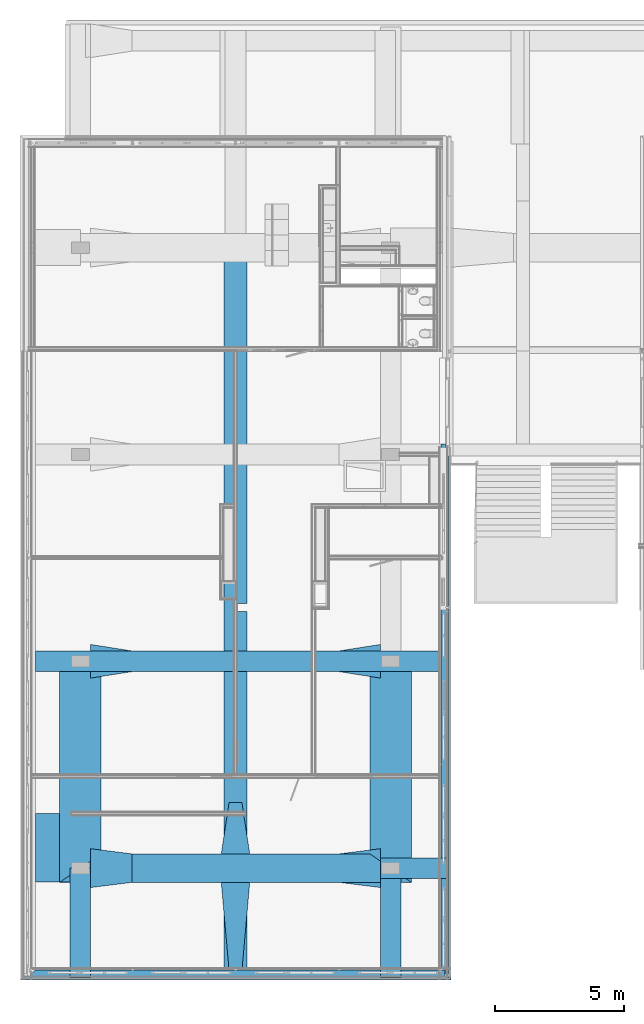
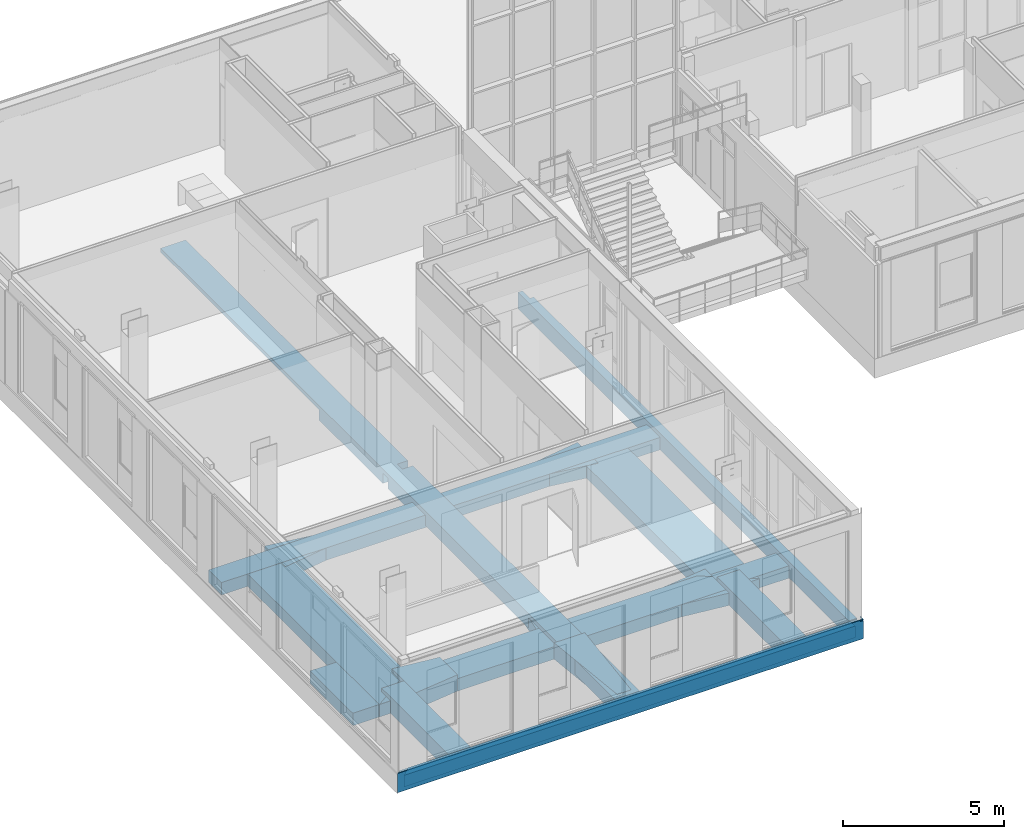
# One storey, part 17 of 94: 18 beams.
"""IFC2X3 building model written with IfcOpenShell, lengths in millimetres."""

from ifc_helpers import new_model, entity, si_unit, converted_unit, derived_unit, money_unit, direction, frame, origin_with_axes, place, context, subcontext, project, spatial, faceted_brep, material, type_object, element, save


model = new_model("IFC2X3")

# Units and contexts
model_context = context("Model", 3, precision=0.01, world=origin_with_axes(), true_north=direction((0.0, 1.0)))
body_context = subcontext(model_context, "Body", "Model", "MODEL_VIEW")
ifc_project = project(units=[si_unit("LENGTHUNIT", "METRE", prefix="MILLI"), si_unit("AREAUNIT", "SQUARE_METRE"), si_unit("VOLUMEUNIT", "CUBIC_METRE"), converted_unit("PLANEANGLEUNIT", "DEGREE", entity("IfcPlaneAngleMeasure", 0.0174532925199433), si_unit("PLANEANGLEUNIT", "RADIAN"), dimensions=[0, 0, 0, 0, 0, 0, 0]), money_unit("EUR"), converted_unit("TIMEUNIT", "Year", entity("IfcTimeMeasure", 31557600.0), si_unit("TIMEUNIT", "SECOND"), dimensions=[0, 0, 1, 0, 0, 0, 0]), si_unit("MASSUNIT", "GRAM", prefix="KILO"), si_unit("THERMODYNAMICTEMPERATUREUNIT", "DEGREE_CELSIUS"), si_unit("LUMINOUSINTENSITYUNIT", "LUMEN"), si_unit("ENERGYUNIT", "JOULE", prefix="MEGA"), derived_unit("THERMALCONDUCTANCEUNIT", [(si_unit("POWERUNIT", "WATT"), 1), (si_unit("LENGTHUNIT", "METRE"), -1), (si_unit("THERMODYNAMICTEMPERATUREUNIT", "KELVIN"), -1)]), derived_unit("SPECIFICHEATCAPACITYUNIT", [(si_unit("ENERGYUNIT", "JOULE"), 1), (si_unit("MASSUNIT", "GRAM", prefix="KILO"), -1), (si_unit("THERMODYNAMICTEMPERATUREUNIT", "KELVIN"), -1)]), derived_unit("MASSDENSITYUNIT", [(si_unit("MASSUNIT", "GRAM", prefix="KILO"), 1), (si_unit("VOLUMEUNIT", "CUBIC_METRE"), -1)])], contexts=[model_context])

# Site, building, storey
site_placement = place(None, origin_with_axes())
site = spatial("IfcSite", under=ifc_project, at=site_placement, Name="<site naam>", CompositionType="ELEMENT")
building_placement = place(site_placement, origin_with_axes())
building = spatial("IfcBuilding", under=site, at=building_placement, Name="<Naam gebouw>", CompositionType="ELEMENT")
storey_placement = place(building_placement, frame((0.0, 0.0, 4250.0), z_axis=(0.0, 0.0, 1.0), x_axis=(1.0, 0.0, 0.0)))
storey = spatial("IfcBuildingStorey", under=building, at=storey_placement, Name="01 1e verdieping", CompositionType="ELEMENT", Elevation=4250.0)

# Beams
ifc_material_1 = material(Name="beton_gewapend_prefab")
beam_type_1 = type_object("IfcBeamType", Name="Betonbanden 160 x 760", PredefinedType="BEAM")
beam_1_placement = place(storey_placement, frame((-12264.99999999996, -12267.03171934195, 69.99994150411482), z_axis=(0.0, 0.0, 1.0), x_axis=(0.0, -1.0, 0.0)))
element("IfcBeam", 1, at=beam_1_placement, inside=storey, type_object=beam_type_1, material=ifc_material_1, Name="41_Balk_Betonbanden", ObjectType="BEAM", context=body_context, shape_type="Brep", body=[
    faceted_brep([(32.99998997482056, -33.00000000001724, -69.99994150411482), (32.99998997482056, 6.999999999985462, -69.99994150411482), (32.99998997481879, 16480.04446784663, -69.99994150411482), (30.96828065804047, 16480.04446784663, -69.99994150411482), (7.958368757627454, 16480.04446784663, -69.99994150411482), (7.958368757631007, 16440.04446100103, -69.99994150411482), (-100.0000071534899, 16440.04446100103, -69.99994150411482), (-100.0000071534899, 16143.04443933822, -69.99994150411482), (-100.0000071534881, 358.9999999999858, -69.99994150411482), (-100.0000071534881, 100.0000071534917, -69.99994150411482), (32.99998997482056, 6.999999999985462, -30.00000230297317), (32.99998997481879, 16563.04443933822, -30.00000230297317), (32.99998997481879, 16563.04443933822, -49.99994150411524), (32.99998997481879, 16480.04446790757, -49.99994150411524), (32.99998997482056, -33.00000000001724, -30.00000230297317), (59.99999757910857, 16480.04446797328, -49.99994150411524), (59.99999757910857, 16480.04446797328, -79.99994380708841), (7.958368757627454, 16480.04446784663, -79.99994380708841), (7.958368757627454, 16600.04446573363, -79.99994380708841), (7.958368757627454, 16600.04446573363, -730.0000145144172), (7.958368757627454, 16480.04446784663, -730.0000145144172), (7.958368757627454, 16480.04446784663, -709.9999695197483), (7.958368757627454, 16540.04447245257, -709.9999695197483), (7.95836875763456, 16540.04446573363, -249.9999415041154), (7.958368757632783, -7.958368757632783, -249.9999415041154), (7.958368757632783, -7.958368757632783, -99.99994150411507), (7.95836875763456, 16440.04446100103, -99.99994150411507), (-100.0000071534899, 16440.04446100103, -100.0000001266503), (4.298051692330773e-06, 16440.04446100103, -99.99994150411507), (-100.0000071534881, 100.0000071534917, -100.0000001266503), (4.298053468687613e-06, -4.298053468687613e-06, -99.99994150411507), (4.298053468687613e-06, -4.298053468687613e-06, -249.9999415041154), (4.298053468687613e-06, -4.298053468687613e-06, -690.0000385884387), (-29.9999980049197, 29.9999980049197, -690.0000385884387), (-29.9999980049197, 29.9999980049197, -660.0000280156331), (-60.00000030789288, 60.00000030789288, -660.0000280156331), (-60.00000030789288, 60.00000030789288, -759.9999375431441), (4.298053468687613e-06, -4.298053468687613e-06, -759.9999375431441), (4.298053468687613e-06, -4.298053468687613e-06, -730.0000145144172), (29.99999527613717, -29.99999527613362, -730.0000145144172), (29.99999527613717, -29.99999527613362, -759.9999375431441), (59.99999757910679, -59.99999757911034, -759.9999375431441), (59.99999757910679, -59.99999757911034, -30.00000230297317), (59.99999757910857, 16600.04446573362, -30.00000230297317), (-60.00000030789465, 16600.04446573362, -30.00000230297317), (-60.00000030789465, 16563.04443933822, -30.00000230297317), (30.96828065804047, 16563.04443933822, -30.00000230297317), (-60.00000030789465, 16563.04443933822, 0.0), (-100.0000071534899, 16563.04443933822, 0.0), (-100.0000071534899, 16563.04443933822, -49.99994150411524), (30.96828065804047, 16563.04443933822, -49.99994150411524), (-100.0000071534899, 16600.04446573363, -49.99994150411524), (59.99999757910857, 16600.04446573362, -49.99994150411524), (59.99999757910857, 16600.04446573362, -759.9999375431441), (59.99999757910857, 16600.04446586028, -79.99994380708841), (29.99999527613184, 16600.04446573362, -759.9999375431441), (29.99999527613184, 16600.04446573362, -730.0000145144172), (4.298051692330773e-06, 16480.04446784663, -730.0000145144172), (-60.00000030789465, 16480.04446784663, -709.9999695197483), (4.298051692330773e-06, 16480.04446784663, -759.9999375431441), (-60.00000030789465, 16480.04446784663, -759.9999375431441), (-60.00000030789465, 16540.04447245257, -709.9999695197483), (-60.00000030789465, 16540.04447245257, -660.0000280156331), (-29.99999800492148, 16540.04447245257, -660.0000280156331), (-29.99999800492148, 16540.04447245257, -690.0000385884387), (4.298051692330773e-06, 16540.04447245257, -690.0000385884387), (4.298051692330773e-06, 16540.04446573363, -249.9999415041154), (-100.0000071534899, 16600.04446573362, 0.0), (-60.00000030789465, 16600.04446573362, 0.0)], [[[0, 1, 2, 3, 4, 5, 6, 7, 8, 9]], [[10, 11, 12, 13, 2, 1, 0, 14]], [[2, 13, 15, 16, 17, 4, 3]], [[5, 4, 17, 18, 19, 20, 21, 22, 23, 24, 25, 26]], [[27, 6, 5, 26, 28]], [[8, 7, 6, 27, 29, 9]], [[14, 0, 9, 29, 30, 25, 24, 31, 32, 33, 34, 35, 36, 37, 38, 39, 40, 41, 42]], [[11, 10, 14, 42, 43, 44, 45, 46]], [[11, 46, 45, 47, 48, 49, 50, 12]], [[12, 50, 49, 51, 52, 15, 13]], [[43, 42, 41, 53, 54, 16, 15, 52]], [[54, 18, 17, 16]], [[18, 54, 53, 55, 56, 19]], [[19, 56, 39, 38, 57, 20]], [[58, 21, 20, 57, 59, 60]], [[21, 58, 61, 22]], [[62, 63, 64, 65, 66, 23, 22, 61]], [[23, 66, 31, 24]], [[30, 28, 26, 25]], [[28, 30, 29, 27]], [[31, 66, 65, 32]], [[32, 65, 64, 33]], [[33, 64, 63, 34]], [[34, 63, 62, 35]], [[60, 36, 35, 62, 61, 58]], [[36, 60, 59, 37]], [[37, 59, 57, 38]], [[55, 40, 39, 56]], [[53, 41, 40, 55]], [[52, 51, 67, 68, 44, 43]], [[68, 47, 45, 44]], [[67, 48, 47, 68]], [[51, 49, 48, 67]]]),
])
ifc_material_2 = material(Name="beton_gewapend C")
beam_type_2 = type_object("IfcBeamType", Name="beton_gewapend C 1500 x 620", PredefinedType="BEAM")
beam_2_placement = place(storey_placement, frame((-7999.999999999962, -7999.999999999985, -30.00000000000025), z_axis=(0.0, 0.0, 1.0), x_axis=(0.0, 1.0, 0.0)))
element("IfcBeam", 2, at=beam_2_placement, inside=storey, type_object=beam_type_2, material=ifc_material_2, Name="28_Balk_beton_gewapend", ObjectType="BEAM", context=body_context, shape_type="Brep", body=[
    faceted_brep([(750.0, 1600.000000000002, -620.0000000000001), (549.9999999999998, 0.0, -620.0000000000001), (-549.9999999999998, 0.0, -620.0000000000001), (-750.0000000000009, 1600.000000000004, -620.0000000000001), (750.0, 1600.000000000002, 0.0), (549.9999999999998, 0.0, 0.0), (-549.9999999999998, 0.0, 0.0), (-750.0000000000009, 1600.000000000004, 0.0)], [[[0, 1, 2, 3]], [[4, 5, 1, 0]], [[5, 6, 2, 1]], [[3, 2, 6, 7]], [[4, 0, 3, 7]], [[7, 6, 5, 4]]]),
])
beam_3_placement = place(storey_placement, frame((0.0, -7999.999999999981, -30.00000000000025), z_axis=(0.0, 0.0, 1.0), x_axis=(0.0, -1.0, 0.0)))
element("IfcBeam", 3, at=beam_3_placement, inside=storey, type_object=beam_type_2, material=ifc_material_2, Name="28_Balk_beton_gewapend", ObjectType="BEAM", context=body_context, shape_type="Brep", body=[
    faceted_brep([(549.9999999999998, 0.0, -620.0000000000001), (549.9999999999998, 0.0, -150.0000000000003), (549.9999999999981, 1600.000000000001, -150.0000000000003), (549.9999999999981, 1600.000000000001, -620.0000000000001), (749.9999999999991, 1600.000000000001, -620.0000000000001), (749.9999999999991, 1600.000000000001, -150.0000000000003)], [[[0, 1, 2, 3]], [[4, 5, 1, 0]], [[1, 5, 2]], [[3, 2, 5, 4]], [[0, 3, 4]]]),
    faceted_brep([(-549.9999999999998, 0.0, -620.0000000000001), (-549.9999999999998, 0.0, -150.0000000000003), (-750.0, 1600.000000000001, -150.0000000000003), (-750.0, 1600.000000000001, -620.0000000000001), (-550.0000000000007, 1200.000000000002, -620.0000000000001), (-550.0000000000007, 1200.000000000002, -150.0000000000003), (-275.0000000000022, 1600.000000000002, -150.0000000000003), (-275.0000000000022, 1600.000000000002, -620.0000000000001)], [[[0, 1, 2, 3]], [[4, 5, 1, 0]], [[5, 6, 2, 1]], [[3, 2, 6, 7]], [[0, 3, 7, 4]], [[7, 6, 5, 4]]]),
])
beam_type_3 = type_object("IfcBeamType", Name="beton_gewapend C 800 x 620", PredefinedType="BEAM")
beam_4_placement = place(storey_placement, frame((2000.000000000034, -7999.999999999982, -30.00000000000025), z_axis=(0.0, 0.0, 1.0), x_axis=(-1.0, 0.0, 0.0)))
element("IfcBeam", 4, at=beam_4_placement, inside=storey, type_object=beam_type_3, material=ifc_material_2, Name="28_Balk_beton_gewapend", ObjectType="BEAM", context=body_context, shape_type="Brep", body=[
    faceted_brep([(-399.9999999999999, 0.0, -620.0000000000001), (-399.9999999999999, 4245.000000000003, -620.0000000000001), (399.9999999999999, 4245.000000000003, -620.0000000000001), (399.9999999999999, 0.0, -620.0000000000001), (-399.9999999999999, 0.0, 0.0), (-399.9999999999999, 4245.000000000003, 0.0), (399.9999999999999, 4245.000000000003, 0.0), (399.9999999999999, 0.0, 0.0)], [[[0, 1, 2, 3]], [[4, 5, 1, 0]], [[2, 1, 5, 6]], [[3, 2, 6, 7]], [[4, 0, 3, 7]], [[7, 6, 5, 4]]]),
])
beam_5_placement = place(storey_placement, frame((-9999.999999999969, -7999.999999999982, -30.00000000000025), z_axis=(0.0, 0.0, 1.0), x_axis=(-1.0, 0.0, 0.0)))
element("IfcBeam", 5, at=beam_5_placement, inside=storey, type_object=beam_type_3, material=ifc_material_2, Name="28_Balk_beton_gewapend", ObjectType="BEAM", context=body_context, shape_type="Brep", body=[
    faceted_brep([(-400.0000000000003, 0.0, -620.0000000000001), (-400.0000000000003, 4245.000000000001, -620.0000000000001), (400.0000000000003, 4245.000000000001, -620.0000000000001), (400.0000000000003, 0.0, -620.0000000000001), (-400.0000000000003, 0.0, 0.0), (-400.0000000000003, 4245.000000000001, 0.0), (400.0000000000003, 4245.000000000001, 0.0), (400.0000000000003, 0.0, 0.0)], [[[0, 1, 2, 3]], [[4, 5, 1, 0]], [[2, 1, 5, 6]], [[3, 2, 6, 7]], [[4, 0, 3, 7]], [[7, 6, 5, 4]]]),
])
beam_6_placement = place(storey_placement, frame((-11894.99999999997, 0.0, -30.00000000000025), z_axis=(0.0, 0.0, 1.0), x_axis=(0.0, -1.0, 0.0)))
element("IfcBeam", 6, at=beam_6_placement, inside=storey, type_object=beam_type_3, material=ifc_material_2, Name="28_Balk_beton_gewapend", ObjectType="BEAM", context=body_context, shape_type="Brep", body=[
    faceted_brep([(-400.0000000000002, 150.0000000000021, -620.0000000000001), (-399.9999999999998, 150.0000000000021, -150.0000000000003), (-400.000000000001, 16140.00000000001, -150.0000000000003), (-400.000000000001, 16140.00000000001, -610.0000280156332), (-400.0000000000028, 16110.04446784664, -610.0000280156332), (-400.000000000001, 16110.04446784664, -620.0000000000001), (400.000000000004, 150.0000000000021, -620.0000000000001), (400.0000000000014, 150.0000000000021, -150.0000000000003), (399.9999999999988, 16140.00000000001, -150.0000000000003), (399.9999999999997, 16140.00000000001, -610.0000280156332), (399.9999999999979, 16110.04446784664, -610.0000280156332), (399.9999999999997, 16110.04446784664, -620.0000000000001)], [[[0, 1, 2, 3, 4, 5]], [[6, 7, 1, 0]], [[7, 8, 2, 1]], [[3, 2, 8, 9]], [[3, 9, 10, 4]], [[4, 10, 11, 5]], [[5, 11, 6, 0]], [[9, 8, 7, 6, 11, 10]]]),
])
beam_7_placement = place(storey_placement, frame((2000.000000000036, -7999.999999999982, -30.00000000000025), z_axis=(0.0, 0.0, 1.0), x_axis=(0.0, -1.0, 0.0)))
element("IfcBeam", 7, at=beam_7_placement, inside=storey, type_object=beam_type_3, material=ifc_material_2, Name="28_Balk_beton_gewapend", ObjectType="BEAM", context=body_context, shape_type="Brep", body=[
    faceted_brep([(-399.9999999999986, -400.0000000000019, -620.0000000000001), (-400.0000000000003, -400.0000000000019, -150.0000000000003), (-400.0000000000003, 2245.0, -150.0000000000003), (-400.0000000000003, 2245.0, -610.0000280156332), (-399.9999999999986, 2215.044467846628, -610.0000280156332), (-400.0000000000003, 2215.044467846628, -620.0000000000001), (400.0000000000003, -400.0000000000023, -620.0000000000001), (400.0000000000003, -400.0000000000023, -150.0000000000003), (400.0000000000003, 2245.0, -150.0000000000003), (400.0000000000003, 2245.0, -610.0000280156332), (399.9999999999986, 2215.044467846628, -610.0000280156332), (400.0000000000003, 2215.044467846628, -620.0000000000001)], [[[0, 1, 2, 3, 4, 5]], [[6, 7, 1, 0]], [[7, 8, 2, 1]], [[3, 2, 8, 9]], [[3, 9, 10, 4]], [[4, 10, 11, 5]], [[5, 11, 6, 0]], [[9, 8, 7, 6, 11, 10]]]),
])
beam_type_4 = type_object("IfcBeamType", Name="beton_gewapend C 1100 x 620", PredefinedType="BEAM")
beam_8_placement = place(storey_placement, frame((-3999.999999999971, -5471.435159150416, -30.00000000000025), z_axis=(0.0, 0.0, 1.0), x_axis=(-1.0, 0.0, 0.0)))
element("IfcBeam", 8, at=beam_8_placement, inside=storey, type_object=beam_type_4, material=ifc_material_2, Name="28_Balk_beton_gewapend", ObjectType="BEAM", context=body_context, shape_type="Brep", body=[
    faceted_brep([(-250.0, 0.0, -620.0000000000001), (-250.0, 0.0, -150.0000000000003), (-550.0000000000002, 1976.782420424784, -150.0000000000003), (-550.0000000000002, 1976.782420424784, -620.0000000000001), (250.0000000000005, 0.0, -620.0000000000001), (250.0000000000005, 0.0, -150.0000000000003), (549.9999999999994, 1976.782420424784, -150.0000000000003), (549.9999999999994, 1976.782420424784, -620.0000000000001)], [[[0, 1, 2, 3]], [[4, 5, 1, 0]], [[5, 6, 2, 1]], [[3, 2, 6, 7]], [[3, 7, 4, 0]], [[7, 6, 5, 4]]]),
])
beam_9_placement = place(storey_placement, frame((-9999.999999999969, -7999.999999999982, -30.00000000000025), z_axis=(0.0, 0.0, 1.0), x_axis=(0.0, -1.0, 0.0)))
element("IfcBeam", 9, at=beam_9_placement, inside=storey, type_object=beam_type_4, material=ifc_material_2, Name="28_Balk_beton_gewapend", ObjectType="BEAM", context=body_context, shape_type="Brep", body=[
    faceted_brep([(400.0000000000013, 12581.81818181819, -620.0000000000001), (400.0000000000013, 12581.81818181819, -150.0000000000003), (549.9999999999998, 12800.00000000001, -150.0000000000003), (549.9999999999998, 12800.00000000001, -620.0000000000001), (400.0000000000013, 11600.0, -620.0000000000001), (400.0000000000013, 11600.0, -150.0000000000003), (545.0000000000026, -792.7272727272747, -150.0000000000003), (550.0000000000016, -800.0000000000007, -150.0000000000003), (-275.0000000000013, 11600.0, -150.0000000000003), (-549.9999999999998, 11200.00000000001, -150.0000000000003), (-550.0000000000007, 800.0000000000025, -150.0000000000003), (545.0000000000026, 800.0000000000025, -150.0000000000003), (550.0000000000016, -800.0000000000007, -620.0000000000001), (-549.9999999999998, 11200.00000000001, -620.0000000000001), (-275.0000000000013, 11600.0, -620.0000000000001), (545.0000000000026, -792.727272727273, -620.0000000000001), (545.0000000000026, 800.0000000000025, -620.0000000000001), (-550.0000000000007, 800.0000000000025, -620.0000000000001)], [[[0, 1, 2, 3]], [[4, 5, 1, 0]], [[6, 7, 2, 1, 5, 8, 9, 10, 11]], [[3, 2, 7, 12]], [[13, 14, 4, 0, 3, 12, 15, 16, 17]], [[14, 8, 5, 4]], [[12, 7, 6, 15]], [[13, 9, 8, 14]], [[17, 10, 9, 13]], [[16, 11, 10, 17]], [[15, 6, 11, 16]]]),
])
beam_10_placement = place(storey_placement, frame((-3999.999999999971, -11944.99999999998, -30.00000000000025), z_axis=(0.0, 0.0, 1.0), x_axis=(1.0, 0.0, 0.0)))
element("IfcBeam", 10, at=beam_10_placement, inside=storey, type_object=beam_type_4, material=ifc_material_2, Name="28_Balk_beton_gewapend", ObjectType="BEAM", context=body_context, shape_type="Brep", body=[
    faceted_brep([(-550.0000000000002, 3395.000000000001, 0.0), (-250.0000000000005, 0.0, 0.0), (250.0, 0.0, 0.0), (550.0000000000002, 3395.000000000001, 0.0), (-550.0000000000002, 3395.000000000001, -620.0000000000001), (-250.0000000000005, 0.0, -620.0000000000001), (250.0, 0.0, -620.0000000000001), (549.9999999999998, 3395.000000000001, -620.0000000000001)], [[[0, 1, 2, 3]], [[4, 5, 1, 0]], [[5, 6, 2, 1]], [[3, 2, 6, 7]], [[4, 0, 3, 7]], [[7, 6, 5, 4]]]),
])
beam_type_5 = type_object("IfcBeamType", Name="beton_gewapend C 300 x 620", PredefinedType="BEAM")
beam_11_placement = place(storey_placement, frame((4095.000000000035, 8400.000000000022, -30.00000000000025), z_axis=(0.0, 0.0, 1.0), x_axis=(-1.0, 0.0, 0.0)))
element("IfcBeam", 11, at=beam_11_placement, inside=storey, type_object=beam_type_5, material=ifc_material_2, Name="28_Balk_beton_gewapend", ObjectType="BEAM", context=body_context, shape_type="Brep", body=[
    faceted_brep([(-149.9999999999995, 20495.0, -620.0000000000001), (-150.0000000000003, 465.0000000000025, -620.0000000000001), (-150.0000000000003, 465.0000000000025, 0.0), (-149.9999999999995, 20495.0, 0.0), (-19.99999999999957, 0.0, -620.0000000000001), (-19.99999999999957, 465.0000000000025, -620.0000000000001), (150.0000000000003, 20495.0, -620.0000000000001), (149.9999999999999, 0.0, -620.0000000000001), (-19.99999999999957, 465.0000000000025, 0.0), (-19.99999999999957, 0.0, 0.0), (149.9999999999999, 0.0, 0.0), (150.0000000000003, 20495.0, 0.0)], [[[0, 1, 2, 3]], [[4, 5, 1, 0, 6, 7]], [[5, 8, 2, 1]], [[2, 8, 9, 10, 11, 3]], [[11, 6, 0, 3]], [[5, 4, 9, 8]], [[10, 7, 6, 11]], [[10, 9, 4, 7]]]),
])
beam_12_placement = place(storey_placement, frame((-11894.99999999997, -12094.99999999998, -30.00000000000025), z_axis=(0.0, 0.0, 1.0), x_axis=(0.0, -1.0, 0.0)))
element("IfcBeam", 12, at=beam_12_placement, inside=storey, type_object=beam_type_5, material=ifc_material_2, Name="28_Balk_beton_gewapend", ObjectType="BEAM", context=body_context, shape_type="Brep", body=[
    faceted_brep([(-150.0000000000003, 149.9999999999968, -620.0000000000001), (-150.0000000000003, 149.9999999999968, -150.0000000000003), (-150.0000000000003, 15990.00000000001, -150.0000000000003), (-150.0000000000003, 15990.00000000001, -620.0000000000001), (150.0000000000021, -150.0000000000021, -590.0000970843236), (150.0000000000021, -150.0000000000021, -150.0000000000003), (112.0317190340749, -112.0317190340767, -620.0000000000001), (112.0317190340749, -112.0317190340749, -560.000086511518), (142.0317213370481, -142.0317213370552, -560.000086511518), (142.0317213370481, -142.0317213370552, -590.0000970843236), (150.0000000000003, 15990.00000000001, -150.0000000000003), (150.0000000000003, 15990.00000000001, -590.0000970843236), (142.0317213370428, 15990.00000000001, -590.0000970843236), (142.0317213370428, 15990.00000000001, -560.000086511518), (112.0317190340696, 15990.00000000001, -560.000086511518), (112.0317190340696, 15990.00000000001, -620.0000000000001)], [[[0, 1, 2, 3]], [[4, 5, 1, 0, 6, 7, 8, 9]], [[5, 10, 2, 1]], [[3, 2, 10, 11, 12, 13, 14, 15]], [[0, 3, 15, 6]], [[11, 10, 5, 4]], [[7, 6, 15, 14]], [[8, 7, 14, 13]], [[9, 8, 13, 12]], [[4, 9, 12, 11]]]),
])
beam_type_6 = type_object("IfcBeamType", Name="beton_gewapend C 1300 x 620", PredefinedType="BEAM")
beam_13_placement = place(storey_placement, frame((0.0, 0.0, -30.00000000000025), z_axis=(0.0, 0.0, 1.0), x_axis=(0.0, -1.0, 0.0)))
element("IfcBeam", 13, at=beam_13_placement, inside=storey, type_object=beam_type_6, material=ifc_material_2, Name="28_Balk_beton_gewapend", ObjectType="BEAM", context=body_context, shape_type="Brep", body=[
    faceted_brep([(399.9999999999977, 0.0, -620.0000000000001), (399.9999999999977, 0.0, -150.0000000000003), (399.9999999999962, 1600.000000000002, -150.0000000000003), (399.9999999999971, 1600.000000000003, -620.0000000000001), (649.9999999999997, 1600.000000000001, -620.0000000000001), (649.9999999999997, 1600.000000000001, -150.0000000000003)], [[[0, 1, 2, 3]], [[4, 5, 1, 0]], [[1, 5, 2]], [[3, 2, 5, 4]], [[0, 3, 4]]]),
    faceted_brep([(-400.0000000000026, 0.0, -620.0000000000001), (-400.0000000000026, 0.0, -150.0000000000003), (-650.0000000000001, 1600.000000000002, -150.0000000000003), (-650.0000000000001, 1600.000000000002, -620.0000000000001), (-400.0000000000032, 1600.000000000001, -620.0000000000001), (-400.0000000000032, 1600.000000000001, -150.0000000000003)], [[[0, 1, 2, 3]], [[4, 5, 1, 0]], [[1, 5, 2]], [[3, 2, 5, 4]], [[4, 0, 3]]]),
])
beam_14_placement = place(storey_placement, frame((-7999.999999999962, 0.0, -30.00000000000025), z_axis=(0.0, 0.0, 1.0), x_axis=(0.0, 1.0, 0.0)))
element("IfcBeam", 14, at=beam_14_placement, inside=storey, type_object=beam_type_6, material=ifc_material_2, Name="28_Balk_beton_gewapend", ObjectType="BEAM", context=body_context, shape_type="Brep", body=[
    faceted_brep([(-399.9999999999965, 1600.000000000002, -620.0000000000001), (-399.9999999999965, 1600.0, -150.0000000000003), (-399.999999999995, 0.0, -150.0000000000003), (-399.999999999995, 0.0, -620.0000000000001), (-650.0000000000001, 1600.000000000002, -620.0000000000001), (-650.0000000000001, 1600.000000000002, -150.0000000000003)], [[[0, 1, 2, 3]], [[4, 5, 1, 0]], [[1, 5, 2]], [[3, 2, 5, 4]], [[0, 3, 4]]]),
    faceted_brep([(649.9999999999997, 1600.000000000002, -620.0000000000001), (649.9999999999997, 1600.000000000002, -150.0000000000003), (400.0000000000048, 0.0, -150.0000000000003), (400.0000000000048, 0.0, -620.0000000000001), (400.0000000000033, 1600.000000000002, -620.0000000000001), (400.0000000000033, 1600.000000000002, -150.0000000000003)], [[[0, 1, 2, 3]], [[4, 5, 1, 0]], [[1, 5, 2]], [[3, 2, 5, 4]], [[3, 4, 0]]]),
])
beam_type_7 = type_object("IfcBeamType", Name="beton_gewapend C 1600 x 620", PredefinedType="BEAM")
beam_15_placement = place(storey_placement, frame((-9999.999999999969, 0.0, -30.00000000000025), z_axis=(0.0, 0.0, 1.0), x_axis=(-1.0, 0.0, 0.0)))
element("IfcBeam", 15, at=beam_15_placement, inside=storey, type_object=beam_type_7, material=ifc_material_2, Name="28_Balk_beton_gewapend", ObjectType="BEAM", context=body_context, shape_type="Brep", body=[
    faceted_brep([(-400.0000000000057, 650.0000000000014, -620.0000000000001), (-400.0000000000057, 650.0000000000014, -150.0000000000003), (-800.0000000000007, 587.5000000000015, -150.0000000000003), (-800.0000000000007, 587.5000000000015, -620.0000000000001), (-400.0000000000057, 400.0000000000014, -620.0000000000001), (-400.0000000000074, 399.9999999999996, -150.0000000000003), (799.999999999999, 8549.999999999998, -150.0000000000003), (-800.0000000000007, 7450.000000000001, -150.0000000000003), (800.0000000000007, 399.9999999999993, -150.0000000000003), (-800.0000000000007, 7450.000000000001, -620.0000000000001), (799.999999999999, 8549.999999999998, -620.0000000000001), (800.0000000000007, 400.000000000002, -620.0000000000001)], [[[0, 1, 2, 3]], [[4, 5, 1, 0]], [[6, 7, 2, 1, 5, 8]], [[3, 2, 7, 9]], [[9, 10, 11, 4, 0, 3]], [[11, 8, 5, 4]], [[9, 7, 6, 10]], [[10, 6, 8, 11]]]),
])
beam_16_placement = place(storey_placement, frame((2000.000000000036, 0.0, -30.00000000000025), z_axis=(0.0, 0.0, 1.0), x_axis=(-1.0, 0.0, 0.0)))
element("IfcBeam", 16, at=beam_16_placement, inside=storey, type_object=beam_type_7, material=ifc_material_2, Name="28_Balk_beton_gewapend", ObjectType="BEAM", context=body_context, shape_type="Brep", body=[
    faceted_brep([(399.999999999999, 399.9999999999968, -620.0000000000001), (399.999999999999, 399.9999999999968, -150.0000000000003), (-800.0000000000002, 399.9999999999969, -150.0000000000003), (-800.0000000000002, 399.9999999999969, -620.0000000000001), (399.999999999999, 649.9999999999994, -620.0000000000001), (399.999999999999, 649.9999999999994, -150.0000000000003), (400.0000000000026, 7600.0, -150.0000000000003), (-800.0000000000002, 7600.0, -150.0000000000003), (800.0, 587.4999999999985, -150.0000000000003), (800.0000000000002, 7299.999999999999, -150.0000000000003), (400.0000000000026, 7250.0, -150.0000000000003), (-800.0000000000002, 7600.000000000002, -620.0000000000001), (799.9999999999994, 587.4999999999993, -620.0000000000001), (400.0000000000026, 7600.000000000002, -620.0000000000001), (400.0000000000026, 7250.0, -620.0000000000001), (800.0000000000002, 7299.999999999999, -620.0000000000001)], [[[0, 1, 2, 3]], [[4, 5, 1, 0]], [[6, 7, 2, 1, 5, 8, 9, 10]], [[3, 2, 7, 11]], [[12, 4, 0, 3, 11, 13, 14, 15]], [[12, 8, 5, 4]], [[11, 7, 6, 13]], [[15, 9, 8, 12]], [[14, 10, 9, 15]], [[13, 6, 10, 14]]]),
    faceted_brep([(-581.8181818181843, 8400.0, -620.0000000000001), (-581.8181818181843, 8400.0, -150.0000000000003), (-800.0000000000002, 8400.0, -150.0000000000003), (-800.0000000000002, 8400.0, -620.0000000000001), (-800.0000000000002, 8549.999999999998, -620.0000000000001), (-800.0000000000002, 8549.999999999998, -150.0000000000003)], [[[0, 1, 2, 3]], [[4, 5, 1, 0]], [[1, 5, 2]], [[3, 2, 5, 4]], [[3, 4, 0]]]),
])
beam_type_8 = type_object("IfcBeamType", Name="beton_gewapend C 2650 x 620", PredefinedType="BEAM")
beam_17_placement = place(storey_placement, frame((-11894.99999999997, -7219.999999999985, -30.00000000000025), z_axis=(0.0, 0.0, 1.0), x_axis=(0.0, -1.0, 0.0)))
element("IfcBeam", 17, at=beam_17_placement, inside=storey, type_object=beam_type_8, material=ifc_material_2, Name="28_Balk_beton_gewapend", ObjectType="BEAM", context=body_context, shape_type="Brep", body=[
    faceted_brep([(-1324.999999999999, 150.0000000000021, -620.0000000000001), (-1325.000000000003, 150.0000000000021, -150.0000000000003), (-1325.000000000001, 1095.000000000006, -150.0000000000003), (-1324.999999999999, 1095.000000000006, -620.0000000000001), (1324.999999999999, 150.0000000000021, -620.0000000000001), (1324.999999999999, 150.0000000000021, -150.0000000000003), (1324.999999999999, 1095.000000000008, -150.0000000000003), (1324.999999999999, 1095.000000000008, -620.0000000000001)], [[[0, 1, 2, 3]], [[4, 5, 1, 0]], [[5, 6, 2, 1]], [[3, 2, 6, 7]], [[4, 0, 3, 7]], [[7, 6, 5, 4]]]),
    faceted_brep([(1324.999999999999, 1102.272727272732, -620.0000000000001), (1324.999999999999, 1102.27272727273, -150.0000000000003), (229.9999999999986, 2695.000000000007, -150.0000000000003), (229.9999999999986, 2695.000000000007, -620.0000000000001), (1324.999999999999, 2695.000000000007, -620.0000000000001), (1324.999999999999, 2695.000000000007, -150.0000000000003)], [[[0, 1, 2, 3]], [[4, 5, 1, 0]], [[1, 5, 2]], [[3, 2, 5, 4]], [[3, 4, 0]]]),
])
ifc_material_3 = material(Name="ALG - ALGEMEEN")
beam_type_9 = type_object("IfcBeamType", Name="ALG - ALGEMEEN 900 x 550", PredefinedType="BEAM")
beam_18_placement = place(storey_placement, frame((-3999.999999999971, 16000.00000000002, -30.00000000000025), z_axis=(0.0, 0.0, 1.0), x_axis=(-1.0, 0.0, 0.0)))
element("IfcBeam", 18, at=beam_18_placement, inside=storey, type_object=beam_type_9, material=ifc_material_3, Name="Info_Balk_ALG", ObjectType="BEAM", context=body_context, shape_type="Brep", body=[
    faceted_brep([(450.0000000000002, 0.0, -150.0000000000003), (-75.00000000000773, 0.0, -149.9999999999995), (-75.00000000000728, 1270.833333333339, -149.9999999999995), (-450.0000000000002, 1270.833333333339, -150.0000000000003), (-450.0000000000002, 1395.833333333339, -150.0000000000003), (-75.00000000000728, 1395.833333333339, -149.9999999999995), (-75.0000000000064, 7925.000000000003, -149.9999999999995), (-449.9999999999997, 7925.000000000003, -149.9999999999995), (-449.9999999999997, 8075.000000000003, -149.9999999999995), (-75.00000000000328, 8075.000000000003, -149.9999999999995), (-75.0000000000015, 13768.00087268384, -149.9999999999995), (-75.00000000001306, 14080.50087268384, -149.9999999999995), (450.0000000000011, 14080.50087268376, -149.9999999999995), (450.0000000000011, 13768.00087268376, -149.9999999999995), (74.99999999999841, 13768.00087268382, -149.9999999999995), (75.00000520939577, 9809.000000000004, -150.0000000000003), (450.0000000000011, 9809.000000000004, -150.0000000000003), (450.0000000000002, 0.0, 0.0), (-450.0000000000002, 0.0, 0.0), (-449.9999999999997, 0.0, -549.9999999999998), (-75.00000002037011, 0.0, -549.9999999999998), (-75.00000000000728, 1270.833333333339, -549.9999999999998), (-449.9999999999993, 1270.833333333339, -549.9999999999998), (-449.9999999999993, 8075.000000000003, -549.9999999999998), (-449.9999999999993, 7925.000000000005, -549.9999999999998), (-449.9999999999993, 1395.833333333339, -549.9999999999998), (-450.0000000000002, 13768.00087268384, 0.0), (-449.9999999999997, 13768.00087268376, -549.9999999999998), (-75.00000000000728, 1395.833333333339, -549.9999999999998), (-75.0000000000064, 7925.000000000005, -549.9999999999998), (-75.00000000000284, 8075.000000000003, -549.9999999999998), (-75.0000000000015, 13768.00087268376, -549.9999999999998), (-75.00000000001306, 14080.50087268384, 0.0), (-75.00137796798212, 13768.00087268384, 0.0), (-75.00137796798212, 13780.50087268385, 0.0), (-449.9999999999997, 14080.50087268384, 0.0), (-449.9999999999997, 14080.50087268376, -549.9999999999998), (450.0000000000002, 14080.50087268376, -549.9999999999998), (449.9999999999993, 9809.000000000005, -549.9999999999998), (450.0000000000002, 13768.00087268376, -549.9999999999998), (449.9999999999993, 24550.0, -549.9999999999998), (449.9999999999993, 24550.0, 0.0), (74.99999999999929, 13768.00087268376, -549.9999999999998), (75.00000520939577, 9809.000000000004, -549.9999999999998), (-449.9999999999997, 24550.0, 0.0), (-449.9999999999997, 24550.0, -549.9999999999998)], [[[0, 1, 2, 3, 4, 5, 6, 7, 8, 9, 10, 11, 12, 13, 14, 15, 16]], [[1, 0, 17, 18, 19, 20]], [[21, 2, 1, 20]], [[22, 3, 2, 21]], [[23, 8, 7, 24, 25, 4, 3, 22, 19, 18, 26, 27]], [[4, 25, 28, 5]], [[5, 28, 29, 6]], [[6, 29, 24, 7]], [[30, 9, 8, 23]], [[31, 10, 9, 30]], [[32, 11, 10, 33, 34]], [[12, 11, 32, 35, 36, 37]], [[0, 16, 38, 39, 13, 12, 37, 40, 41, 17]], [[13, 39, 42, 14]], [[42, 43, 15, 14]], [[16, 15, 43, 38]], [[35, 32, 34, 33, 26, 18, 17, 41, 44]], [[19, 22, 21, 20]], [[28, 25, 24, 29]], [[26, 33, 10, 31, 27]], [[27, 31, 30, 23]], [[45, 36, 35, 44]], [[45, 40, 37, 36]], [[39, 38, 43, 42]], [[45, 44, 41, 40]]]),
    faceted_brep([(-449.9999999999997, 28245.0, 0.0), (-449.9999999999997, 28245.0, -549.9999999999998), (-449.9999999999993, 25681.66666666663, -549.9999999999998), (-449.999999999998, 25681.66666666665, 0.0), (450.0000000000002, 28245.0, 0.0), (450.0000000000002, 28245.0, -549.9999999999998), (449.9999999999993, 25681.66666666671, -549.9999999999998), (250.0000000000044, 27945.0, -549.9999999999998), (-249.9999999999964, 27945.0, -549.9999999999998), (-249.9999999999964, 27945.0, 0.0), (250.0000000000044, 27945.0, 0.0), (449.9999999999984, 25681.66666666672, 0.0)], [[[0, 1, 2, 3]], [[0, 4, 5, 1]], [[6, 7, 8, 2, 1, 5]], [[2, 8, 9, 3]], [[3, 9, 10, 11, 4, 0]], [[5, 4, 11, 6]], [[7, 6, 11, 10]], [[8, 7, 10, 9]]]),
])

save(model, "model.ifc")
